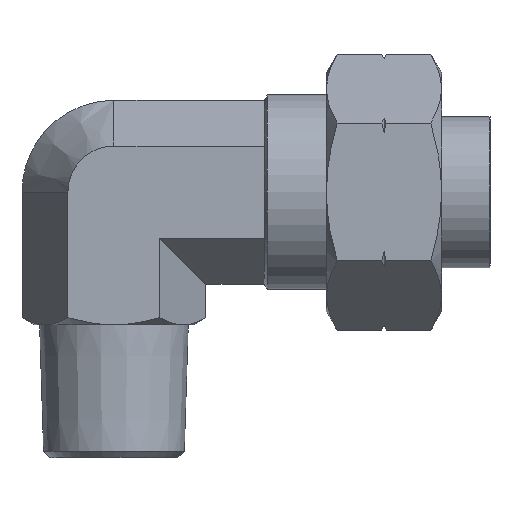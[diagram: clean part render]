
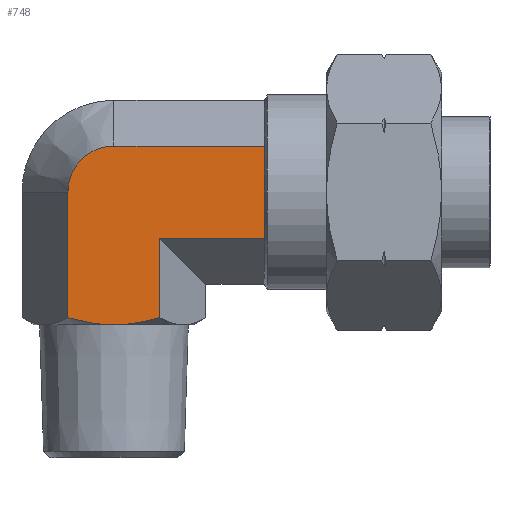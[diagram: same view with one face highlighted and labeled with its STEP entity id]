
A CAD part, top view. The second image highlights one B-rep face of the part: STEP entity #748.
In plain terms, the highlighted planar face has unit normal (0, 0, 1).
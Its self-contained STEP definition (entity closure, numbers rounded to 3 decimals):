
#212=CARTESIAN_POINT('',(-5.196,30.,9.0));
#213=VERTEX_POINT('',#212);
#220=CARTESIAN_POINT('',(0.,35.196,9.));
#221=VERTEX_POINT('',#220);
#222=CARTESIAN_POINT('',(0.,35.196,9.));
#223=CARTESIAN_POINT('',(-0.389,35.196,9.));
#224=CARTESIAN_POINT('',(-1.166,35.108,9.));
#225=CARTESIAN_POINT('',(-2.643,34.593,9.));
#226=CARTESIAN_POINT('',(-4.202,33.351,9.));
#227=CARTESIAN_POINT('',(-5.066,31.555,9.));
#228=CARTESIAN_POINT('',(-5.196,30.389,9.0));
#229=CARTESIAN_POINT('',(-5.196,30.,9.0));
#230=B_SPLINE_CURVE_WITH_KNOTS('',3,(#222,#223,#224,#225,#226,#227,#228,#229),.UNSPECIFIED.,.F.,.U.,(4,1,1,1,1,4),(0.0,0.143,0.286,0.571,0.857,1.0),.UNSPECIFIED.);
#231=EDGE_CURVE('',#221,#213,#230,.T.);
#619=CARTESIAN_POINT('',(0.,15.,9.0));
#620=VERTEX_POINT('',#619);
#621=CARTESIAN_POINT('',(5.196,15.804,9.));
#622=VERTEX_POINT('',#621);
#623=CARTESIAN_POINT('',(0.,15.,9.0));
#624=CARTESIAN_POINT('',(2.412,15.,9.));
#625=CARTESIAN_POINT('',(5.196,15.804,9.));
#633=(BOUNDED_CURVE()B_SPLINE_CURVE(2,(#623,#624,#625),.UNSPECIFIED.,.F.,.U.)B_SPLINE_CURVE_WITH_KNOTS((3,3),(0.527,1.054),.UNSPECIFIED.)CURVE()GEOMETRIC_REPRESENTATION_ITEM()RATIONAL_B_SPLINE_CURVE((1.0,1.038,1.0))REPRESENTATION_ITEM(''));
#634=EDGE_CURVE('',#620,#622,#633,.T.);
#664=CARTESIAN_POINT('',(-5.196,15.804,9.));
#665=VERTEX_POINT('',#664);
#686=CARTESIAN_POINT('',(-5.196,15.804,9.));
#687=CARTESIAN_POINT('',(-2.412,15.,9.));
#688=CARTESIAN_POINT('',(0.,15.,9.0));
#696=(BOUNDED_CURVE()B_SPLINE_CURVE(2,(#686,#687,#688),.UNSPECIFIED.,.F.,.U.)B_SPLINE_CURVE_WITH_KNOTS((3,3),(0.0,0.527),.UNSPECIFIED.)CURVE()GEOMETRIC_REPRESENTATION_ITEM()RATIONAL_B_SPLINE_CURVE((1.0,1.038,1.0))REPRESENTATION_ITEM(''));
#697=EDGE_CURVE('',#665,#620,#696,.T.);
#702=CARTESIAN_POINT('',(0.,15.,9.0));
#703=DIRECTION('',(0.0,0.0,1.0));
#704=DIRECTION('',(1.0,0.0,0.0));
#705=AXIS2_PLACEMENT_3D('',#702,#703,#704);
#706=PLANE('',#705);
#707=ORIENTED_EDGE('',*,*,#697,.T.);
#708=ORIENTED_EDGE('',*,*,#634,.T.);
#709=CARTESIAN_POINT('',(5.196,24.804,9.0));
#710=VERTEX_POINT('',#709);
#711=CARTESIAN_POINT('',(5.196,15.804,9.));
#712=DIRECTION('',(0.,1.0,0.));
#713=VECTOR('',#712,9.);
#714=LINE('',#711,#713);
#715=EDGE_CURVE('',#622,#710,#714,.T.);
#716=ORIENTED_EDGE('',*,*,#715,.T.);
#717=CARTESIAN_POINT('',(17.,24.804,9.0));
#718=VERTEX_POINT('',#717);
#719=CARTESIAN_POINT('',(17.,24.804,9.0));
#720=DIRECTION('',(-1.0,0.0,0.0));
#721=VECTOR('',#720,11.804);
#722=LINE('',#719,#721);
#723=EDGE_CURVE('',#718,#710,#722,.T.);
#724=ORIENTED_EDGE('',*,*,#723,.F.);
#725=CARTESIAN_POINT('',(17.,35.196,9.));
#726=VERTEX_POINT('',#725);
#727=CARTESIAN_POINT('',(17.,35.196,9.));
#728=DIRECTION('',(0.0,-1.0,0.0));
#729=VECTOR('',#728,10.392);
#730=LINE('',#727,#729);
#731=EDGE_CURVE('',#726,#718,#730,.T.);
#732=ORIENTED_EDGE('',*,*,#731,.F.);
#733=CARTESIAN_POINT('',(17.,35.196,9.));
#734=DIRECTION('',(-1.0,0.0,0.0));
#735=VECTOR('',#734,17.0);
#736=LINE('',#733,#735);
#737=EDGE_CURVE('',#726,#221,#736,.T.);
#738=ORIENTED_EDGE('',*,*,#737,.T.);
#739=ORIENTED_EDGE('',*,*,#231,.T.);
#740=CARTESIAN_POINT('',(-5.196,15.804,9.));
#741=DIRECTION('',(0.,1.0,0.));
#742=VECTOR('',#741,14.196);
#743=LINE('',#740,#742);
#744=EDGE_CURVE('',#665,#213,#743,.T.);
#745=ORIENTED_EDGE('',*,*,#744,.F.);
#746=EDGE_LOOP('',(#707,#708,#716,#724,#732,#738,#739,#745));
#747=FACE_OUTER_BOUND('',#746,.T.);
#748=ADVANCED_FACE('',(#747),#706,.T.);
